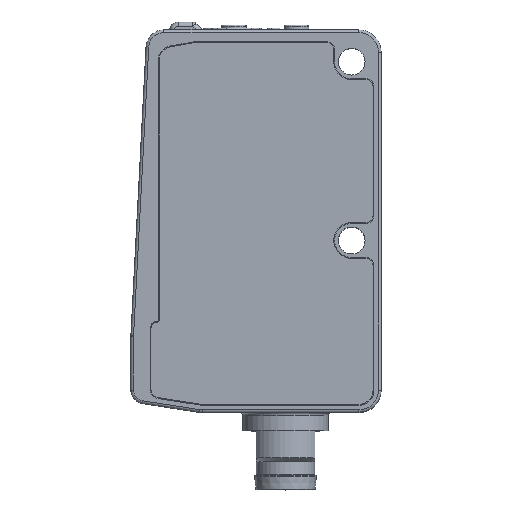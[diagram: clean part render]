
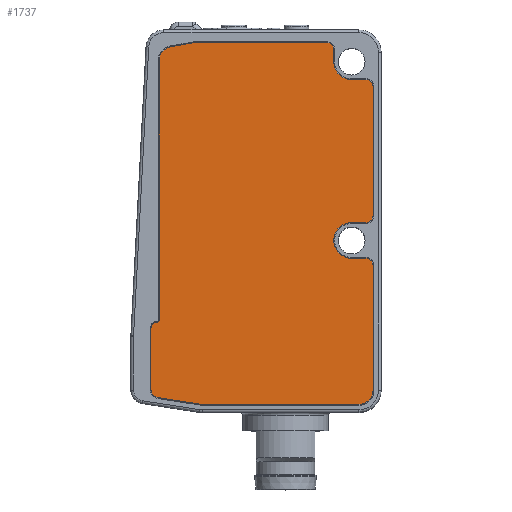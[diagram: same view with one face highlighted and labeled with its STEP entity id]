
A CAD part, top view. The second image highlights one B-rep face of the part: STEP entity #1737.
In plain terms, the highlighted planar face has unit normal (0, 0, 1).
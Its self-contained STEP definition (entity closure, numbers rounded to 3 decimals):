
#1283=CIRCLE('',#5895,2.);
#1284=CIRCLE('',#5900,2.);
#1285=CIRCLE('',#5906,0.8);
#1286=CIRCLE('',#5908,0.8);
#1287=CIRCLE('',#5910,0.8);
#1288=CIRCLE('',#5912,0.8);
#1289=CIRCLE('',#5914,1.6);
#1290=CIRCLE('',#5916,1.);
#1291=CIRCLE('',#5918,1.6);
#1292=CIRCLE('',#5920,1.6);
#1293=CIRCLE('',#5922,0.2);
#1294=CIRCLE('',#5924,0.7);
#1295=CIRCLE('',#5926,1.);
#1737=ADVANCED_FACE('',(#2125),#1953,.T.);
#1953=PLANE('',#5928);
#2125=FACE_OUTER_BOUND('',#2417,.T.);
#2417=EDGE_LOOP('',(#3244,#3245,#3246,#3247,#3248,#3249,#3250,#3251,#3252,
#3253,#3254,#3255,#3256,#3257,#3258,#3259,#3260,#3261,#3262,#3263,#3264,
#3265,#3266,#3267,#3268));
#3244=ORIENTED_EDGE('',*,*,#4690,.F.);
#3245=ORIENTED_EDGE('',*,*,#4738,.T.);
#3246=ORIENTED_EDGE('',*,*,#4725,.F.);
#3247=ORIENTED_EDGE('',*,*,#4734,.T.);
#3248=ORIENTED_EDGE('',*,*,#4722,.F.);
#3249=ORIENTED_EDGE('',*,*,#4731,.T.);
#3250=ORIENTED_EDGE('',*,*,#4719,.F.);
#3251=ORIENTED_EDGE('',*,*,#4730,.T.);
#3252=ORIENTED_EDGE('',*,*,#4716,.F.);
#3253=ORIENTED_EDGE('',*,*,#4715,.F.);
#3254=ORIENTED_EDGE('',*,*,#4712,.F.);
#3255=ORIENTED_EDGE('',*,*,#4729,.T.);
#3256=ORIENTED_EDGE('',*,*,#4709,.F.);
#3257=ORIENTED_EDGE('',*,*,#4728,.T.);
#3258=ORIENTED_EDGE('',*,*,#4706,.F.);
#3259=ORIENTED_EDGE('',*,*,#4705,.F.);
#3260=ORIENTED_EDGE('',*,*,#4702,.F.);
#3261=ORIENTED_EDGE('',*,*,#4727,.T.);
#3262=ORIENTED_EDGE('',*,*,#4699,.F.);
#3263=ORIENTED_EDGE('',*,*,#4732,.T.);
#3264=ORIENTED_EDGE('',*,*,#4696,.F.);
#3265=ORIENTED_EDGE('',*,*,#4733,.T.);
#3266=ORIENTED_EDGE('',*,*,#4693,.F.);
#3267=ORIENTED_EDGE('',*,*,#4736,.T.);
#3268=ORIENTED_EDGE('',*,*,#4737,.T.);
#4164=VERTEX_POINT('',#8506);
#4165=VERTEX_POINT('',#8508);
#4166=VERTEX_POINT('',#8512);
#4167=VERTEX_POINT('',#8514);
#4168=VERTEX_POINT('',#8518);
#4169=VERTEX_POINT('',#8520);
#4170=VERTEX_POINT('',#8524);
#4171=VERTEX_POINT('',#8526);
#4172=VERTEX_POINT('',#8530);
#4173=VERTEX_POINT('',#8532);
#4174=VERTEX_POINT('',#8536);
#4175=VERTEX_POINT('',#8540);
#4176=VERTEX_POINT('',#8544);
#4177=VERTEX_POINT('',#8546);
#4178=VERTEX_POINT('',#8550);
#4179=VERTEX_POINT('',#8552);
#4180=VERTEX_POINT('',#8556);
#4181=VERTEX_POINT('',#8560);
#4182=VERTEX_POINT('',#8564);
#4183=VERTEX_POINT('',#8566);
#4184=VERTEX_POINT('',#8570);
#4185=VERTEX_POINT('',#8572);
#4186=VERTEX_POINT('',#8576);
#4187=VERTEX_POINT('',#8578);
#4188=VERTEX_POINT('',#8598);
#4690=EDGE_CURVE('',#4164,#4165,#5196,.T.);
#4693=EDGE_CURVE('',#4166,#4167,#5199,.T.);
#4696=EDGE_CURVE('',#4168,#4169,#5202,.T.);
#4699=EDGE_CURVE('',#4170,#4171,#5205,.T.);
#4702=EDGE_CURVE('',#4172,#4173,#5208,.T.);
#4705=EDGE_CURVE('',#4173,#4174,#1283,.T.);
#4706=EDGE_CURVE('',#4174,#4175,#5211,.T.);
#4709=EDGE_CURVE('',#4176,#4177,#5214,.T.);
#4712=EDGE_CURVE('',#4178,#4179,#5217,.T.);
#4715=EDGE_CURVE('',#4179,#4180,#1284,.T.);
#4716=EDGE_CURVE('',#4180,#4181,#5220,.T.);
#4719=EDGE_CURVE('',#4182,#4183,#5223,.T.);
#4722=EDGE_CURVE('',#4184,#4185,#5226,.T.);
#4725=EDGE_CURVE('',#4186,#4187,#5229,.T.);
#4727=EDGE_CURVE('',#4172,#4171,#1285,.T.);
#4728=EDGE_CURVE('',#4176,#4175,#1286,.T.);
#4729=EDGE_CURVE('',#4178,#4177,#1287,.T.);
#4730=EDGE_CURVE('',#4182,#4181,#1288,.T.);
#4731=EDGE_CURVE('',#4184,#4183,#1289,.T.);
#4732=EDGE_CURVE('',#4170,#4169,#1290,.T.);
#4733=EDGE_CURVE('',#4168,#4167,#1291,.T.);
#4734=EDGE_CURVE('',#4186,#4185,#1292,.T.);
#4736=EDGE_CURVE('',#4166,#4188,#1293,.T.);
#4737=EDGE_CURVE('',#4188,#4165,#1294,.T.);
#4738=EDGE_CURVE('',#4164,#4187,#1295,.T.);
#5196=LINE('',#8507,#5489);
#5199=LINE('',#8513,#5492);
#5202=LINE('',#8519,#5495);
#5205=LINE('',#8525,#5498);
#5208=LINE('',#8531,#5501);
#5211=LINE('',#8539,#5504);
#5214=LINE('',#8545,#5507);
#5217=LINE('',#8551,#5510);
#5220=LINE('',#8559,#5513);
#5223=LINE('',#8565,#5516);
#5226=LINE('',#8571,#5519);
#5229=LINE('',#8577,#5522);
#5489=VECTOR('',#6804,1.);
#5492=VECTOR('',#6809,1.);
#5495=VECTOR('',#6814,1.);
#5498=VECTOR('',#6819,1.);
#5501=VECTOR('',#6824,1.);
#5504=VECTOR('',#6833,1.);
#5507=VECTOR('',#6838,1.);
#5510=VECTOR('',#6843,1.);
#5513=VECTOR('',#6852,1.);
#5516=VECTOR('',#6857,1.);
#5519=VECTOR('',#6862,1.);
#5522=VECTOR('',#6867,1.);
#5895=AXIS2_PLACEMENT_3D('',#8537,#6829,#6830);
#5900=AXIS2_PLACEMENT_3D('',#8557,#6848,#6849);
#5906=AXIS2_PLACEMENT_3D('',#8581,#6871,#6872);
#5908=AXIS2_PLACEMENT_3D('',#8583,#6875,#6876);
#5910=AXIS2_PLACEMENT_3D('',#8585,#6879,#6880);
#5912=AXIS2_PLACEMENT_3D('',#8587,#6883,#6884);
#5914=AXIS2_PLACEMENT_3D('',#8589,#6887,#6888);
#5916=AXIS2_PLACEMENT_3D('',#8591,#6891,#6892);
#5918=AXIS2_PLACEMENT_3D('',#8593,#6895,#6896);
#5920=AXIS2_PLACEMENT_3D('',#8595,#6899,#6900);
#5922=AXIS2_PLACEMENT_3D('',#8599,#6904,#6905);
#5924=AXIS2_PLACEMENT_3D('',#8601,#6908,#6909);
#5926=AXIS2_PLACEMENT_3D('',#8603,#6912,#6913);
#5928=AXIS2_PLACEMENT_3D('',#8605,#6916,#6917);
#6804=DIRECTION('',(0.,1.,0.));
#6809=DIRECTION('',(0.,1.,0.));
#6814=DIRECTION('',(0.985,0.174,0.));
#6819=DIRECTION('',(1.,0.,0.));
#6824=DIRECTION('',(0.,-1.,0.));
#6829=DIRECTION('',(0.,0.,1.));
#6830=DIRECTION('',(1.,0.,0.));
#6833=DIRECTION('',(1.,0.,0.));
#6838=DIRECTION('',(0.,-1.,0.));
#6843=DIRECTION('',(-1.,0.,0.));
#6848=DIRECTION('',(0.,0.,1.));
#6849=DIRECTION('',(1.,0.,0.));
#6852=DIRECTION('',(1.,0.,0.));
#6857=DIRECTION('',(0.,-1.,0.));
#6862=DIRECTION('',(-1.,0.,0.));
#6867=DIRECTION('',(-0.988,0.153,0.));
#6871=DIRECTION('',(0.,0.,1.));
#6872=DIRECTION('',(1.,0.,0.));
#6875=DIRECTION('',(0.,0.,1.));
#6876=DIRECTION('',(1.,0.,0.));
#6879=DIRECTION('',(0.,0.,1.));
#6880=DIRECTION('',(1.,0.,0.));
#6883=DIRECTION('',(0.,0.,1.));
#6884=DIRECTION('',(1.,0.,0.));
#6887=DIRECTION('',(0.,0.,1.));
#6888=DIRECTION('',(1.,0.,0.));
#6891=DIRECTION('',(0.,0.,1.));
#6892=DIRECTION('',(1.,0.,0.));
#6895=DIRECTION('',(0.,0.,1.));
#6896=DIRECTION('',(1.,0.,0.));
#6899=DIRECTION('',(0.,0.,1.));
#6900=DIRECTION('',(1.,0.,0.));
#6904=DIRECTION('',(0.,0.,-1.));
#6905=DIRECTION('',(1.,0.,0.));
#6908=DIRECTION('',(0.,0.,1.));
#6909=DIRECTION('',(1.,0.,0.));
#6912=DIRECTION('',(0.,0.,1.));
#6913=DIRECTION('',(1.,0.,0.));
#6916=DIRECTION('',(0.,0.,1.));
#6917=DIRECTION('',(-1.,0.,0.));
#8506=CARTESIAN_POINT('',(-11.75,-18.751,15.));
#8507=CARTESIAN_POINT('',(-11.75,-19.608,15.));
#8508=CARTESIAN_POINT('',(-11.75,-11.991,15.));
#8512=CARTESIAN_POINT('',(-10.85,-11.091,15.));
#8513=CARTESIAN_POINT('',(-10.85,-11.291,15.));
#8514=CARTESIAN_POINT('',(-10.85,17.944,15.));
#8518=CARTESIAN_POINT('',(-9.528,19.519,15.));
#8519=CARTESIAN_POINT('',(-10.85,19.286,15.));
#8520=CARTESIAN_POINT('',(-6.836,19.994,15.));
#8524=CARTESIAN_POINT('',(-6.663,20.009,15.));
#8525=CARTESIAN_POINT('',(-6.75,20.009,15.));
#8526=CARTESIAN_POINT('',(7.9,20.009,15.));
#8530=CARTESIAN_POINT('',(8.7,19.209,15.));
#8531=CARTESIAN_POINT('',(8.7,20.009,15.));
#8532=CARTESIAN_POINT('',(8.7,17.85,15.));
#8536=CARTESIAN_POINT('',(10.7,15.85,15.));
#8537=CARTESIAN_POINT('',(10.7,17.85,15.));
#8539=CARTESIAN_POINT('',(10.7,15.85,15.));
#8540=CARTESIAN_POINT('',(12.3,15.85,15.));
#8544=CARTESIAN_POINT('',(13.1,15.05,15.));
#8545=CARTESIAN_POINT('',(13.1,15.85,15.));
#8546=CARTESIAN_POINT('',(13.1,0.65,15.));
#8550=CARTESIAN_POINT('',(12.3,-0.15,15.));
#8551=CARTESIAN_POINT('',(13.1,-0.15,15.));
#8552=CARTESIAN_POINT('',(10.7,-0.15,15.));
#8556=CARTESIAN_POINT('',(10.7,-4.15,15.));
#8557=CARTESIAN_POINT('',(10.7,-2.15,15.));
#8559=CARTESIAN_POINT('',(10.7,-4.15,15.));
#8560=CARTESIAN_POINT('',(12.3,-4.15,15.));
#8564=CARTESIAN_POINT('',(13.1,-4.95,15.));
#8565=CARTESIAN_POINT('',(13.1,-4.15,15.));
#8566=CARTESIAN_POINT('',(13.1,-18.891,15.));
#8570=CARTESIAN_POINT('',(11.5,-20.491,15.));
#8571=CARTESIAN_POINT('',(13.1,-20.491,15.));
#8572=CARTESIAN_POINT('',(-5.927,-20.491,15.));
#8576=CARTESIAN_POINT('',(-6.172,-20.472,15.));
#8577=CARTESIAN_POINT('',(-6.05,-20.491,15.));
#8578=CARTESIAN_POINT('',(-10.903,-19.74,15.));
#8581=CARTESIAN_POINT('',(7.9,19.209,15.));
#8583=CARTESIAN_POINT('',(12.3,15.05,15.));
#8585=CARTESIAN_POINT('',(12.3,0.65,15.));
#8587=CARTESIAN_POINT('',(12.3,-4.95,15.));
#8589=CARTESIAN_POINT('',(11.5,-18.891,15.));
#8591=CARTESIAN_POINT('',(-6.663,19.009,15.));
#8593=CARTESIAN_POINT('',(-9.25,17.944,15.));
#8595=CARTESIAN_POINT('',(-5.927,-18.891,15.));
#8598=CARTESIAN_POINT('',(-11.05,-11.291,15.));
#8599=CARTESIAN_POINT('',(-11.05,-11.091,15.));
#8601=CARTESIAN_POINT('',(-11.05,-11.991,15.));
#8603=CARTESIAN_POINT('',(-10.75,-18.751,15.));
#8605=CARTESIAN_POINT('',(10.7,17.85,15.));
